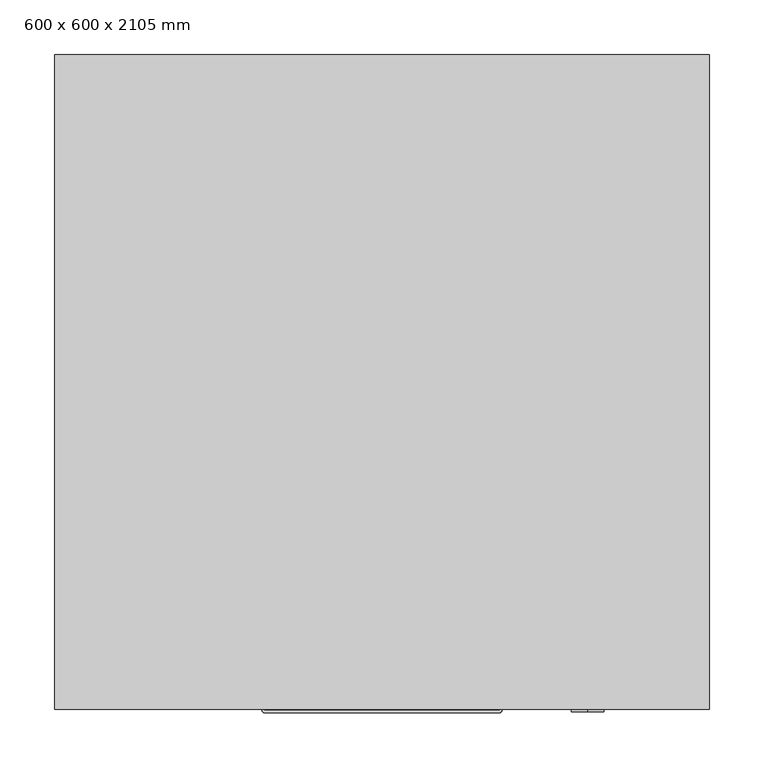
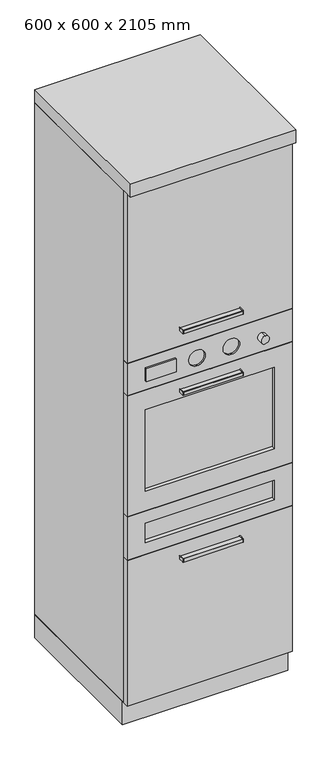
"""IFC4 building model written with IfcOpenShell, lengths in millimetres: furniture geometry, Unidad de torre - Horno : 600 x 600 x 2105 mm."""

from ifc_helpers import new_model, si_unit, point, frame, frame_2d, origin, origin_with_axes, place, context, project, spatial, polyline, circle_curve, trimmed, segment, composite_curve, outline, extrude, faceted_brep, source, transform, mapped, element, save
from ifc_brep_helpers import plane_surface, revolved_surface, advanced_brep


def furniture_600_x_600_x_2105_mm_e2cf2370(model_context):
    return source(origin(), model_context, "Body", "SolidModel", [
        extrude(outline(composite_curve([segment(polyline([(-63.2996736, -580.0), (152.7003264, -580.0), (152.7003264, -600.5)]), True, "CONTINUOUS"), segment(trimmed(circle_curve(frame_2d((152.2003264, -600.5)), 0.5), [point((152.7003264, -600.5))], [point((152.2003264, -601.0))], False, "CARTESIAN"), True, "CONTINUOUS"), segment(polyline([(152.2003264, -601.0), (-62.7996736, -601.0)]), True, "CONTINUOUS"), segment(trimmed(circle_curve(frame_2d((-62.7996736, -600.5)), 0.5), [point((-62.7996736, -601.0))], [point((-63.2996736, -600.5))], False, "CARTESIAN"), True, "CONTINUOUS"), segment(polyline([(-63.2996736, -600.5), (-63.2996736, -580.0)]), True, "CONTINUOUS")], self_intersect=False)), frame((0.0, 0.0, 1468.5856462), z_axis=(0.0, 0.0, 1.0), x_axis=(1.0, 0.0, 0.0)), (0.0, 0.0, 1.0), 6.4890959),
        extrude(outline(composite_curve([segment(polyline([(-65.2996736, -580.0), (-63.2996736, -580.0), (-63.2996736, -600.5)]), True, "CONTINUOUS"), segment(trimmed(circle_curve(frame_2d((-62.7996736, -600.5)), 0.5), [point((-63.2996736, -600.5))], [point((-62.7996736, -601.0))], True, "CARTESIAN"), True, "CONTINUOUS"), segment(polyline([(-62.7996736, -601.0), (152.2003264, -601.0)]), True, "CONTINUOUS"), segment(trimmed(circle_curve(frame_2d((152.2003264, -600.5)), 0.5), [point((152.2003264, -601.0))], [point((152.7003264, -600.5))], True, "CARTESIAN"), True, "CONTINUOUS"), segment(polyline([(152.7003264, -600.5), (152.7003264, -580.0), (154.7003264, -580.0), (154.7003264, -600.5)]), True, "CONTINUOUS"), segment(trimmed(circle_curve(frame_2d((152.2003264, -600.5)), 2.5), [point((154.7003264, -600.5))], [point((152.2003264, -603.0))], False, "CARTESIAN"), True, "CONTINUOUS"), segment(polyline([(152.2003264, -603.0), (-62.7996736, -603.0)]), True, "CONTINUOUS"), segment(trimmed(circle_curve(frame_2d((-62.7996736, -600.5)), 2.5), [point((-62.7996736, -603.0))], [point((-65.2996736, -600.5))], False, "CARTESIAN"), True, "CONTINUOUS"), segment(polyline([(-65.2996736, -600.5), (-65.2996736, -580.0)]), True, "CONTINUOUS")], self_intersect=False)), frame((0.0, 0.0, 1465.8202572), z_axis=(0.0, 0.0, 1.0), x_axis=(1.0, 0.0, 0.0)), (0.0, 0.0, 1.0), 12.0),
        extrude(outline(composite_curve([segment(polyline([(-63.2996736, -580.0), (152.7003264, -580.0), (152.7003264, -600.5)]), True, "CONTINUOUS"), segment(trimmed(circle_curve(frame_2d((152.2003264, -600.5)), 0.5), [point((152.7003264, -600.5))], [point((152.2003264, -601.0))], False, "CARTESIAN"), True, "CONTINUOUS"), segment(polyline([(152.2003264, -601.0), (-62.7996736, -601.0)]), True, "CONTINUOUS"), segment(trimmed(circle_curve(frame_2d((-62.7996736, -600.5)), 0.5), [point((-62.7996736, -601.0))], [point((-63.2996736, -600.5))], False, "CARTESIAN"), True, "CONTINUOUS"), segment(polyline([(-63.2996736, -600.5), (-63.2996736, -580.0)]), True, "CONTINUOUS")], self_intersect=False)), frame((0.0, 0.0, 1231.9451319), z_axis=(0.0, 0.0, 1.0), x_axis=(1.0, 0.0, 0.0)), (0.0, 0.0, 1.0), 6.4890959),
        extrude(outline(composite_curve([segment(polyline([(-65.2996736, -580.0), (-63.2996736, -580.0), (-63.2996736, -600.5)]), True, "CONTINUOUS"), segment(trimmed(circle_curve(frame_2d((-62.7996736, -600.5)), 0.5), [point((-63.2996736, -600.5))], [point((-62.7996736, -601.0))], True, "CARTESIAN"), True, "CONTINUOUS"), segment(polyline([(-62.7996736, -601.0), (152.2003264, -601.0)]), True, "CONTINUOUS"), segment(trimmed(circle_curve(frame_2d((152.2003264, -600.5)), 0.5), [point((152.2003264, -601.0))], [point((152.7003264, -600.5))], True, "CARTESIAN"), True, "CONTINUOUS"), segment(polyline([(152.7003264, -600.5), (152.7003264, -580.0), (154.7003264, -580.0), (154.7003264, -600.5)]), True, "CONTINUOUS"), segment(trimmed(circle_curve(frame_2d((152.2003264, -600.5)), 2.5), [point((154.7003264, -600.5))], [point((152.2003264, -603.0))], False, "CARTESIAN"), True, "CONTINUOUS"), segment(polyline([(152.2003264, -603.0), (-62.7996736, -603.0)]), True, "CONTINUOUS"), segment(trimmed(circle_curve(frame_2d((-62.7996736, -600.5)), 2.5), [point((-62.7996736, -603.0))], [point((-65.2996736, -600.5))], False, "CARTESIAN"), True, "CONTINUOUS"), segment(polyline([(-65.2996736, -600.5), (-65.2996736, -580.0)]), True, "CONTINUOUS")], self_intersect=False)), frame((0.0, 0.0, 1229.1797428), z_axis=(0.0, 0.0, 1.0), x_axis=(1.0, 0.0, 0.0)), (0.0, 0.0, 1.0), 12.0),
        extrude(outline(composite_curve([segment(polyline([(-63.2996736, -580.0), (152.7003264, -580.0), (152.7003264, -600.5)]), True, "CONTINUOUS"), segment(trimmed(circle_curve(frame_2d((152.2003264, -600.5)), 0.5), [point((152.7003264, -600.5))], [point((152.2003264, -601.0))], False, "CARTESIAN"), True, "CONTINUOUS"), segment(polyline([(152.2003264, -601.0), (-62.7996736, -601.0)]), True, "CONTINUOUS"), segment(trimmed(circle_curve(frame_2d((-62.7996736, -600.5)), 0.5), [point((-62.7996736, -601.0))], [point((-63.2996736, -600.5))], False, "CARTESIAN"), True, "CONTINUOUS"), segment(polyline([(-63.2996736, -600.5), (-63.2996736, -580.0)]), True, "CONTINUOUS")], self_intersect=False)), frame((0.0, 0.0, 591.9451319), z_axis=(0.0, 0.0, 1.0), x_axis=(1.0, 0.0, 0.0)), (0.0, 0.0, 1.0), 6.4890959),
        extrude(outline(composite_curve([segment(polyline([(-65.2996736, -580.0), (-63.2996736, -580.0), (-63.2996736, -600.5)]), True, "CONTINUOUS"), segment(trimmed(circle_curve(frame_2d((-62.7996736, -600.5)), 0.5), [point((-63.2996736, -600.5))], [point((-62.7996736, -601.0))], True, "CARTESIAN"), True, "CONTINUOUS"), segment(polyline([(-62.7996736, -601.0), (152.2003264, -601.0)]), True, "CONTINUOUS"), segment(trimmed(circle_curve(frame_2d((152.2003264, -600.5)), 0.5), [point((152.2003264, -601.0))], [point((152.7003264, -600.5))], True, "CARTESIAN"), True, "CONTINUOUS"), segment(polyline([(152.7003264, -600.5), (152.7003264, -580.0), (154.7003264, -580.0), (154.7003264, -600.5)]), True, "CONTINUOUS"), segment(trimmed(circle_curve(frame_2d((152.2003264, -600.5)), 2.5), [point((154.7003264, -600.5))], [point((152.2003264, -603.0))], False, "CARTESIAN"), True, "CONTINUOUS"), segment(polyline([(152.2003264, -603.0), (-62.7996736, -603.0)]), True, "CONTINUOUS"), segment(trimmed(circle_curve(frame_2d((-62.7996736, -600.5)), 2.5), [point((-62.7996736, -603.0))], [point((-65.2996736, -600.5))], False, "CARTESIAN"), True, "CONTINUOUS"), segment(polyline([(-65.2996736, -600.5), (-65.2996736, -580.0)]), True, "CONTINUOUS")], self_intersect=False)), frame((0.0, 0.0, 589.1797428), z_axis=(0.0, 0.0, 1.0), x_axis=(1.0, 0.0, 0.0)), (0.0, 0.0, 1.0), 12.0),
        extrude(outline(polyline([(-81.1282242, -588.0), (-190.2996736, -588.0), (-190.2996736, -580.0), (-81.1282242, -580.0), (-81.1282242, -588.0)])), frame((0.0, 0.0, 1316.662147), z_axis=(0.0, 0.0, 1.0), x_axis=(1.0, 0.0, 0.0)), (0.0, 0.0, 1.0), 50.0),
        extrude(outline(polyline([(279.7003264, -566.0), (-190.2996736, -566.0), (-190.2996736, -558.0), (279.7003264, -558.0), (279.7003264, -566.0)])), frame((0.0, 0.0, 891.0699831), z_axis=(0.0, 0.0, 1.0), x_axis=(1.0, 0.0, 0.0)), (0.0, 0.0, 1.0), 312.8600338),
        extrude(outline(polyline([(279.7003264, -566.0), (-190.2996736, -566.0), (-190.2996736, -558.0), (279.7003264, -558.0), (279.7003264, -566.0)])), frame((0.0, 0.0, 695.0), z_axis=(0.0, 0.0, 1.0), x_axis=(1.0, 0.0, 0.0)), (0.0, 0.0, 1.0), 74.0699831),
        extrude(outline(composite_curve([segment(trimmed(circle_curve(frame_2d((1337.8901406, 233.1843461)), 15.0), [point((1352.8901406, 233.1843461))], [point((1322.8901406, 233.1843461))], False, "CARTESIAN"), True, "CONTINUOUS"), segment(trimmed(circle_curve(frame_2d((1337.8901406, 233.1843461)), 15.0), [point((1322.8901406, 233.1843461))], [point((1352.8901406, 233.1843461))], False, "CARTESIAN"), True, "CONTINUOUS")], self_intersect=False)), frame((0.0, -602.0, 0.0), z_axis=(0.0, 1.0, 0.0), x_axis=(0.0, 0.0, 1.0)), (0.0, 0.0, 1.0), 22.0),
        faceted_brep([(344.7003264, -580.0, 650.0), (344.7003264, -580.0, 814.0699831), (-255.2996736, -580.0, 814.0699831), (-255.2996736, -580.0, 650.0), (279.7003264, -580.0, 769.0699831), (279.7003264, -580.0, 695.0), (-190.2996736, -580.0, 695.0), (-190.2996736, -580.0, 769.0699831), (344.7003264, -558.0, 650.0), (-255.2996736, -558.0, 650.0), (-255.2996736, -558.0, 814.0699831), (344.7003264, -558.0, 814.0699831), (279.7003264, -558.0, 769.0699831), (-190.2996736, -558.0, 769.0699831), (-190.2996736, -558.0, 695.0), (279.7003264, -558.0, 695.0)], [[[0, 1, 2, 3], [4, 5, 6, 7]], [[8, 9, 10, 11], [12, 13, 14, 15]], [[1, 0, 8, 11]], [[2, 1, 11, 10]], [[3, 2, 10, 9]], [[0, 3, 9, 8]], [[5, 4, 12, 15]], [[6, 5, 15, 14]], [[7, 6, 14, 13]], [[4, 7, 13, 12]]]),
        advanced_brep(
        [(344.7003264, -580.0, 1280.9300169), (344.7003264, -580.0, 1405.0), (-255.2996736, -580.0, 1405.0), (-255.2996736, -580.0, 1280.9300169), (123.1843461, -580.0, 1307.8901406), (123.1843461, -580.0, 1367.8901406), (-1.8156539, -580.0, 1307.8901406), (-1.8156539, -580.0, 1367.8901406), (344.7003264, -558.0, 1280.9300169), (-255.2996736, -558.0, 1280.9300169), (-255.2996736, -558.0, 1405.0), (344.7003264, -558.0, 1405.0), (123.1843461, -574.0, 1307.8901406), (123.1843461, -574.0, 1367.8901406), (-1.8156539, -574.0, 1307.8901406), (-1.8156539, -574.0, 1367.8901406)],
        [
            (0, 1),
            (1, 2),
            (2, 3),
            (3, 0),
            (4, 5, circle_curve(frame((123.1843461, -580.0, 1337.8901406), z_axis=(0.0, 1.0, 0.0), x_axis=(0.0, 0.0, 1.0)), 30.0)),
            (5, 4, circle_curve(frame((123.1843461, -580.0, 1337.8901406), z_axis=(0.0, 1.0, 0.0), x_axis=(0.0, 0.0, 1.0)), 30.0)),
            (6, 7, circle_curve(frame((-1.8156539, -580.0, 1337.8901406), z_axis=(0.0, 1.0, 0.0), x_axis=(0.0, 0.0, 1.0)), 30.0)),
            (7, 6, circle_curve(frame((-1.8156539, -580.0, 1337.8901406), z_axis=(0.0, 1.0, 0.0), x_axis=(0.0, 0.0, 1.0)), 30.0)),
            (8, 9),
            (9, 10),
            (10, 11),
            (11, 8),
            (0, 8),
            (11, 1),
            (10, 2),
            (9, 3),
            (12, 13, circle_curve(frame((123.1843461, -574.0, 1337.8901406), z_axis=(0.0, -1.0, 0.0), x_axis=(0.0, 0.0, 1.0)), 30.0)),
            (13, 12, circle_curve(frame((123.1843461, -574.0, 1337.8901406), z_axis=(0.0, -1.0, 0.0), x_axis=(0.0, 0.0, 1.0)), 30.0)),
            (14, 15, circle_curve(frame((-1.8156539, -574.0, 1337.8901406), z_axis=(0.0, -1.0, 0.0), x_axis=(0.0, 0.0, 1.0)), 30.0)),
            (15, 14, circle_curve(frame((-1.8156539, -574.0, 1337.8901406), z_axis=(0.0, -1.0, 0.0), x_axis=(0.0, 0.0, 1.0)), 30.0)),
            (13, 5),
            (4, 12),
            (15, 7),
            (6, 14),
        ],
        [
            plane_surface(frame((344.7003264, -580.0, 650.0), z_axis=(0.0, -1.0, 0.0), x_axis=(0.0, 0.0, 1.0))),
            plane_surface(frame((344.7003264, -558.0, 650.0), z_axis=(0.0, 1.0, 0.0), x_axis=(0.0, 0.0, -1.0))),
            plane_surface(frame((344.7003264, -580.0, 1280.9300169), z_axis=(1.0, 0.0, 0.0), x_axis=(0.0, 1.0, 0.0))),
            plane_surface(frame((344.7003264, -580.0, 1405.0), z_axis=(0.0, 0.0, 1.0), x_axis=(0.0, 1.0, 0.0))),
            plane_surface(frame((-255.2996736, -580.0, 1405.0), z_axis=(-1.0, 0.0, 0.0), x_axis=(0.0, 1.0, 0.0))),
            plane_surface(frame((-255.2996736, -580.0, 1280.9300169), z_axis=(0.0, 0.0, -1.0), x_axis=(0.0, 1.0, 0.0))),
            plane_surface(frame((123.1843461, -574.0, 1367.8901406), z_axis=(0.0, -1.0, 0.0), x_axis=(1.0, 0.0, 0.0))),
            revolved_surface(polyline([(123.1843461, -574.0, 1367.8901406), (123.1843461, -580.0, 1367.8901406)]), (123.1843461, -580.0, 1337.8901406), (0.0, 1.0, 0.0)),
            revolved_surface(polyline([(-1.8156539, -574.0, 1367.8901406), (-1.8156539, -580.0, 1367.8901406)]), (-1.8156539, -580.0, 1337.8901406), (0.0, 1.0, 0.0)),
        ],
        [
            (0, [[1, 2, 3, 4], [5, 6], [7, 8]]),
            (1, [[9, 10, 11, 12]]),
            (2, [[-1, 13, -12, 14]]),
            (3, [[-2, -14, -11, 15]]),
            (4, [[-3, -15, -10, 16]]),
            (5, [[-4, -16, -9, -13]]),
            (6, [[17, 18]]),
            (6, [[19, 20]]),
            (7, [[-18, 21, -5, 22]]),
            (7, [[-17, -22, -6, -21]]),
            (8, [[-20, 23, -7, 24]]),
            (8, [[-19, -24, -8, -23]]),
        ],
    ),
        faceted_brep([(344.7003264, -580.0, 1278.9300169), (-255.2996736, -580.0, 1278.9300169), (-255.2996736, -580.0, 816.0699831), (344.7003264, -580.0, 816.0699831), (279.7003264, -580.0, 891.0699831), (-190.2996736, -580.0, 891.0699831), (-190.2996736, -580.0, 1203.9300169), (279.7003264, -580.0, 1203.9300169), (344.7003264, -558.0, 1278.9300169), (344.7003264, -558.0, 816.0699831), (-255.2996736, -558.0, 816.0699831), (-255.2996736, -558.0, 1278.9300169), (279.7003264, -558.0, 891.0699831), (279.7003264, -558.0, 1203.9300169), (-190.2996736, -558.0, 1203.9300169), (-190.2996736, -558.0, 891.0699831)], [[[0, 1, 2, 3], [4, 5, 6, 7]], [[8, 9, 10, 11], [12, 13, 14, 15]], [[1, 0, 8, 11]], [[2, 1, 11, 10]], [[3, 2, 10, 9]], [[0, 3, 9, 8]], [[5, 4, 12, 15]], [[6, 5, 15, 14]], [[7, 6, 14, 13]], [[4, 7, 13, 12]]]),
        extrude(outline(polyline([(344.7003264, -0.533703), (344.7003264, -550.533703), (-255.2996736, -550.533703), (-255.2996736, -0.533703), (344.7003264, -0.533703)])), origin_with_axes(), (0.0, 0.0, 1.0), 90.0),
        extrude(outline(polyline([(344.7003264, -580.0), (-255.2996736, -580.0), (-255.2996736, -558.0), (344.7003264, -558.0), (344.7003264, -580.0)])), frame((0.0, 0.0, 1407.0), z_axis=(0.0, 0.0, 1.0), x_axis=(1.0, 0.0, 0.0)), (0.0, 0.0, 1.0), 648.0),
        extrude(outline(polyline([(344.7003264, -580.0), (-255.2996736, -580.0), (-255.2996736, -558.0), (344.7003264, -558.0), (344.7003264, -580.0)])), frame((0.0, 0.0, 90.0), z_axis=(0.0, 0.0, 1.0), x_axis=(1.0, 0.0, 0.0)), (0.0, 0.0, 1.0), 558.0),
        extrude(outline(polyline([(344.7003264, 0.0), (344.7003264, -600.0), (-255.2996736, -600.0), (-255.2996736, 0.0), (344.7003264, 0.0)])), frame((0.0, 0.0, 2055.0), z_axis=(0.0, 0.0, 1.0), x_axis=(1.0, 0.0, 0.0)), (0.0, 0.0, 1.0), 50.0),
        extrude(outline(polyline([(344.7003264, 0.0), (344.7003264, -558.0), (322.7003264, -558.0), (322.7003264, -22.0), (-233.2996736, -22.0), (-233.2996736, -558.0), (-255.2996736, -558.0), (-255.2996736, 0.0), (344.7003264, 0.0)])), frame((0.0, 0.0, 90.0), z_axis=(0.0, 0.0, 1.0), x_axis=(1.0, 0.0, 0.0)), (0.0, 0.0, 1.0), 1965.0),
    ])


if __name__ == "__main__":
    model = new_model("IFC4")
    model_context = context("Model", 3, world=origin())
    ifc_project = project(units=[si_unit("LENGTHUNIT", "METRE", prefix="MILLI")], contexts=[model_context])
    site = spatial("IfcSite", under=ifc_project)
    building = spatial("IfcBuilding", under=site)
    placement = place(None, origin())
    furniture_600_x_600_x_2105_mm_shape = furniture_600_x_600_x_2105_mm_e2cf2370(model_context)
    element("IfcFurniture", 1, ObjectType="Unidad de torre - Horno : 600 x 600 x 2105 mm", at=placement, inside=building, context=model_context, shape_type="MappedRepresentation", body=[
        mapped(furniture_600_x_600_x_2105_mm_shape, transform((0.0, 0.0, 0.0), x_axis=(1.0, 0.0, 0.0), y_axis=(0.0, 1.0, 0.0), z_axis=(0.0, 0.0, 1.0))),
    ])
    save(model, "model.ifc")
